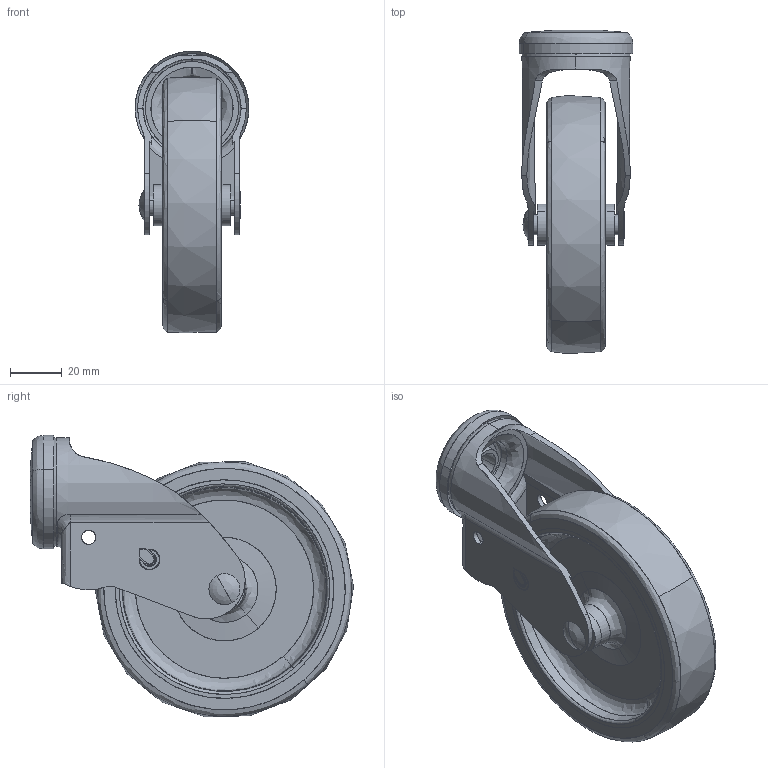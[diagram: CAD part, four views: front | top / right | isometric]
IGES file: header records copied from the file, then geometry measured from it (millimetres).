
Start section: SolidWorks IGES file using analytic representation for surfaces
Global section: file name: S:\Tyokansio\ML\3DWEBMALLIT\E\EI-PTE\IGES\200303_IGES.IGS; native system: SolidWorks 2011; preprocessor: SolidWorks 2011; author: markola; date: 140612.124330; units: millimetre
Bounding box: 43.95 x 124.89 x 108.76 mm (x, y, z)
Surface area: 70361 mm2 (no closed solid volume)
Topology: 0 solids, 0 shells, 279 faces, 4726 edges, 4639 vertices
Faces by surface type: revolution 167, bspline 112
